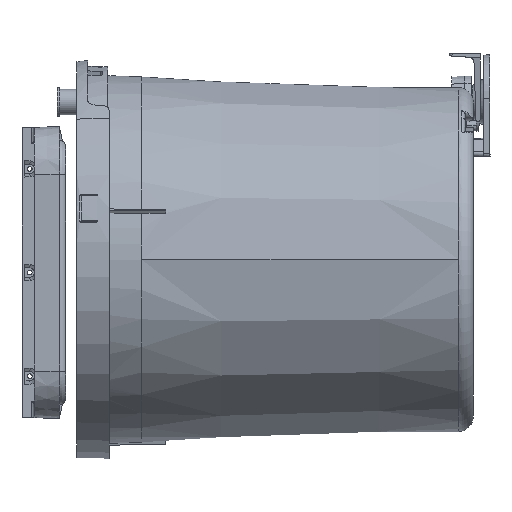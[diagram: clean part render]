
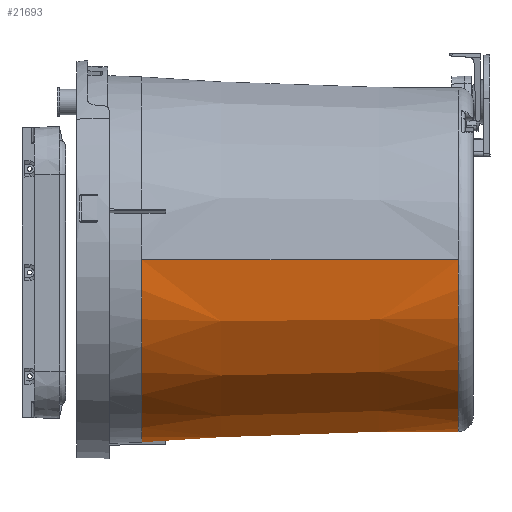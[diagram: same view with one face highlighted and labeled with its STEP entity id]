
A CAD part, left-side view. The second image highlights one B-rep face of the part: STEP entity #21693.
In plain terms, the highlighted conical face has half-angle 2 degrees and reference radius 171.32 mm.
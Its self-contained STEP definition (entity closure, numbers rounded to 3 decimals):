
#3139=DIRECTION('',(-0.035,-0.999,0.));
#3140=VECTOR('',#3139,305.71);
#3141=CARTESIAN_POINT('',(-22.845,336.,-197.5));
#3142=LINE('',#3141,#3140);
#4630=CARTESIAN_POINT('',(-154.709,313.,-367.551));
#4631=CARTESIAN_POINT('',(-154.696,315.556,
-367.641));
#4632=CARTESIAN_POINT('',(-154.672,320.667,
-367.819));
#4633=CARTESIAN_POINT('',(-154.635,328.333,
-368.086));
#4634=CARTESIAN_POINT('',(-154.61,333.444,
-368.264));
#4635=CARTESIAN_POINT('',(-154.598,336.,-368.353));
#4637=CARTESIAN_POINT('',(-199.5,336.,-197.5));
#4638=DIRECTION('',(0.,1.,0.));
#4639=DIRECTION('',(0.254,0.,-0.967));
#4640=AXIS2_PLACEMENT_3D('',#4637,#4638,#4639);
#4642=DIRECTION('',(0.035,-0.999,0.));
#4643=VECTOR('',#4642,305.71);
#4644=CARTESIAN_POINT('',(-376.155,336.,-197.5));
#4645=LINE('',#4644,#4643);
#4646=CARTESIAN_POINT('',(-199.5,30.477,-197.5));
#4647=DIRECTION('',(0.,-1.,0.));
#4648=DIRECTION('',(-1.,0.,0.));
#4649=AXIS2_PLACEMENT_3D('',#4646,#4647,#4648);
#4651=CARTESIAN_POINT('',(-152.96,336.,-367.914));
#4652=CARTESIAN_POINT('',(-152.994,333.444,
-367.831));
#4653=CARTESIAN_POINT('',(-153.062,328.333,
-367.664));
#4654=CARTESIAN_POINT('',(-153.163,320.667,
-367.414));
#4655=CARTESIAN_POINT('',(-153.231,315.556,
-367.248));
#4656=CARTESIAN_POINT('',(-153.265,313.,-367.165));
#4944=CARTESIAN_POINT('',(-199.5,313.,-197.5));
#4945=DIRECTION('',(0.,-1.,0.));
#4946=DIRECTION('',(0.255,0.,-0.967));
#4947=AXIS2_PLACEMENT_3D('',#4944,#4945,#4946);
#4975=CARTESIAN_POINT('',(-199.5,336.,-197.5));
#4976=DIRECTION('',(0.,-1.,0.));
#4977=DIRECTION('',(0.263,0.,-0.965));
#4978=AXIS2_PLACEMENT_3D('',#4975,#4976,#4977);
#5451=CARTESIAN_POINT('',(-154.598,336.,-368.353));
#15267=CARTESIAN_POINT('',(-152.96,336.,-367.914));
#15268=CARTESIAN_POINT('',(-22.845,336.,-197.5));
#15269=VERTEX_POINT('',#15267);
#15270=VERTEX_POINT('',#15268);
#15315=CARTESIAN_POINT('',(-376.155,336.,-197.5));
#15316=VERTEX_POINT('',#15315);
#15317=VERTEX_POINT('',#5451);
#15731=CARTESIAN_POINT('',(-33.514,30.477,-197.5));
#15733=VERTEX_POINT('',#15731);
#15734=CARTESIAN_POINT('',(-365.486,30.477,-197.5));
#15735=VERTEX_POINT('',#15734);
#15925=CARTESIAN_POINT('',(-154.709,313.,-367.551));
#15926=CARTESIAN_POINT('',(-153.265,313.,-367.165));
#15927=VERTEX_POINT('',#15925);
#15928=VERTEX_POINT('',#15926);
#21672=CARTESIAN_POINT('',(-199.5,183.238,-197.5));
#21673=DIRECTION('',(0.,1.,0.));
#21674=DIRECTION('',(1.,0.,0.));
#21675=AXIS2_PLACEMENT_3D('',#21672,#21673,#21674);
#21676=CONICAL_SURFACE('',#21675,171.32,2.);
#21678=ORIENTED_EDGE('',*,*,#21677,.F.);
#21680=ORIENTED_EDGE('',*,*,#21679,.T.);
#21682=ORIENTED_EDGE('',*,*,#21681,.T.);
#21683=ORIENTED_EDGE('',*,*,#20171,.T.);
#21685=ORIENTED_EDGE('',*,*,#21684,.T.);
#21686=ORIENTED_EDGE('',*,*,#20197,.F.);
#21688=ORIENTED_EDGE('',*,*,#21687,.F.);
#21690=ORIENTED_EDGE('',*,*,#21689,.T.);
#21691=EDGE_LOOP('',(#21678,#21680,#21682,#21683,#21685,#21686,#21688,#21690));
#21692=FACE_OUTER_BOUND('',#21691,.F.);
#4636=B_SPLINE_CURVE_WITH_KNOTS('',3,(#4630,#4631,#4632,#4633,#4634,#4635),
.UNSPECIFIED.,.F.,.F.,(4,1,1,4),(0.,0.333,0.667,1.),
.UNSPECIFIED.);
#4641=CIRCLE('',#4640,176.655);
#4650=CIRCLE('',#4649,165.986);
#4657=B_SPLINE_CURVE_WITH_KNOTS('',3,(#4651,#4652,#4653,#4654,#4655,#4656),
.UNSPECIFIED.,.F.,.F.,(4,1,1,4),(0.,0.333,0.667,1.),
.UNSPECIFIED.);
#4948=CIRCLE('',#4947,175.852);
#4979=CIRCLE('',#4978,176.655);
#20171=EDGE_CURVE('',#15316,#15735,#4645,.T.);
#20197=EDGE_CURVE('',#15270,#15733,#3142,.T.);
#21677=EDGE_CURVE('',#15927,#15928,#4948,.T.);
#21679=EDGE_CURVE('',#15927,#15317,#4636,.T.);
#21681=EDGE_CURVE('',#15317,#15316,#4641,.T.);
#21684=EDGE_CURVE('',#15735,#15733,#4650,.T.);
#21687=EDGE_CURVE('',#15269,#15270,#4979,.T.);
#21689=EDGE_CURVE('',#15269,#15928,#4657,.T.);
#21693=ADVANCED_FACE('',(#21692),#21676,.T.);
